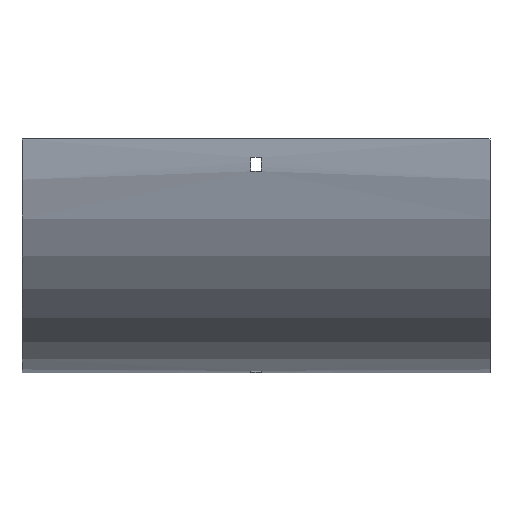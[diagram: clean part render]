
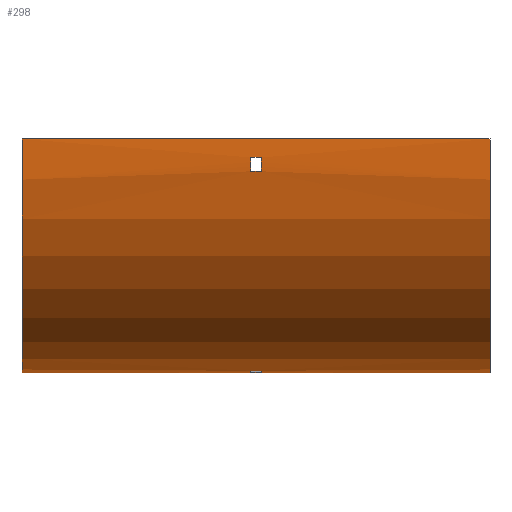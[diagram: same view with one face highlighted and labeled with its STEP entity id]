
A CAD part, front view. The second image highlights one B-rep face of the part: STEP entity #298.
In plain terms, the highlighted cylindrical face has radius 152 mm (diameter 304 mm), a partial arc.
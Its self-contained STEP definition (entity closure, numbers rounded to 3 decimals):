
#8 = CIRCLE ( 'NONE', #671, 152. ) ;
#12 = CARTESIAN_POINT ( 'NONE',  ( -3.25, 100., 0. ) ) ;
#18 = LINE ( 'NONE', #377, #825 ) ;
#58 = AXIS2_PLACEMENT_3D ( 'NONE', #446, #985, #802 ) ;
#71 = VERTEX_POINT ( 'NONE', #603 ) ;
#79 = DIRECTION ( 'NONE',  ( 1., 0., 0. ) ) ;
#90 = CARTESIAN_POINT ( 'NONE',  ( 152., -51.526, -12. ) ) ;
#109 = CARTESIAN_POINT ( 'NONE',  ( -152., 100., -152. ) ) ;
#123 = CARTESIAN_POINT ( 'NONE',  ( 152., -52., 0. ) ) ;
#131 = ORIENTED_EDGE ( 'NONE', *, *, #142, .T. ) ;
#139 = VERTEX_POINT ( 'NONE', #182 ) ;
#142 = EDGE_CURVE ( 'NONE', #145, #547, #806, .T. ) ;
#144 = CARTESIAN_POINT ( 'NONE',  ( -3.25, -51.526, -12. ) ) ;
#145 = VERTEX_POINT ( 'NONE', #423 ) ;
#151 = EDGE_CURVE ( 'NONE', #71, #530, #1024, .T. ) ;
#154 = DIRECTION ( 'NONE',  ( 0., 0., 1. ) ) ;
#163 = FACE_BOUND ( 'NONE', #930, .T. ) ;
#181 = CARTESIAN_POINT ( 'NONE',  ( -3.25, 79., -150.542 ) ) ;
#182 = CARTESIAN_POINT ( 'NONE',  ( 3.25, 79., -150.542 ) ) ;
#187 = DIRECTION ( 'NONE',  ( -1., 0., 0. ) ) ;
#188 = ORIENTED_EDGE ( 'NONE', *, *, #770, .T. ) ;
#196 = CARTESIAN_POINT ( 'NONE',  ( 152., 100., -152. ) ) ;
#208 = VECTOR ( 'NONE', #476, 1000. ) ;
#238 = EDGE_CURVE ( 'NONE', #71, #145, #1007, .T. ) ;
#251 = VERTEX_POINT ( 'NONE', #823 ) ;
#277 = EDGE_LOOP ( 'NONE', ( #131, #820, #663, #421 ) ) ;
#291 = DIRECTION ( 'NONE',  ( -1., 0., 0. ) ) ;
#298 = ADVANCED_FACE ( 'NONE', ( #494, #163, #581 ), #1051, .T. ) ;
#305 = LINE ( 'NONE', #461, #1043 ) ;
#312 = DIRECTION ( 'NONE',  ( -1., 0., 0. ) ) ;
#336 = DIRECTION ( 'NONE',  ( 0., 0., -1. ) ) ;
#351 = CARTESIAN_POINT ( 'NONE',  ( -3.25, 88., -151.526 ) ) ;
#377 = CARTESIAN_POINT ( 'NONE',  ( 152., 79., -150.542 ) ) ;
#393 = AXIS2_PLACEMENT_3D ( 'NONE', #609, #1054, #795 ) ;
#399 = VERTEX_POINT ( 'NONE', #181 ) ;
#414 = AXIS2_PLACEMENT_3D ( 'NONE', #779, #1131, #336 ) ;
#421 = ORIENTED_EDGE ( 'NONE', *, *, #238, .T. ) ;
#423 = CARTESIAN_POINT ( 'NONE',  ( -152., -52., 0. ) ) ;
#440 = DIRECTION ( 'NONE',  ( -1., 0., 0. ) ) ;
#446 = CARTESIAN_POINT ( 'NONE',  ( -152., 100., 0. ) ) ;
#456 = ORIENTED_EDGE ( 'NONE', *, *, #822, .F. ) ;
#461 = CARTESIAN_POINT ( 'NONE',  ( 152., 88., -151.526 ) ) ;
#476 = DIRECTION ( 'NONE',  ( -1., 0., 0. ) ) ;
#478 = EDGE_CURVE ( 'NONE', #530, #547, #719, .T. ) ;
#494 = FACE_OUTER_BOUND ( 'NONE', #277, .T. ) ;
#527 = CIRCLE ( 'NONE', #393, 152. ) ;
#530 = VERTEX_POINT ( 'NONE', #556 ) ;
#535 = CARTESIAN_POINT ( 'NONE',  ( 152., -50.542, -21. ) ) ;
#547 = VERTEX_POINT ( 'NONE', #109 ) ;
#556 = CARTESIAN_POINT ( 'NONE',  ( 152., 100., -152. ) ) ;
#562 = ORIENTED_EDGE ( 'NONE', *, *, #870, .T. ) ;
#578 = ORIENTED_EDGE ( 'NONE', *, *, #635, .F. ) ;
#581 = FACE_BOUND ( 'NONE', #620, .T. ) ;
#592 = CARTESIAN_POINT ( 'NONE',  ( 152., 100., 0. ) ) ;
#603 = CARTESIAN_POINT ( 'NONE',  ( 152., -52., 0. ) ) ;
#605 = CARTESIAN_POINT ( 'NONE',  ( 3.25, 100., 0. ) ) ;
#609 = CARTESIAN_POINT ( 'NONE',  ( -3.25, 100., 0. ) ) ;
#618 = VECTOR ( 'NONE', #79, 1000. ) ;
#620 = EDGE_LOOP ( 'NONE', ( #456, #1142, #879, #578 ) ) ;
#621 = LINE ( 'NONE', #90, #618 ) ;
#625 = LINE ( 'NONE', #535, #1048 ) ;
#635 = EDGE_CURVE ( 'NONE', #836, #902, #305, .T. ) ;
#643 = DIRECTION ( 'NONE',  ( 1., 0., 0. ) ) ;
#645 = EDGE_CURVE ( 'NONE', #139, #399, #18, .T. ) ;
#663 = ORIENTED_EDGE ( 'NONE', *, *, #151, .F. ) ;
#671 = AXIS2_PLACEMENT_3D ( 'NONE', #12, #981, #704 ) ;
#690 = VERTEX_POINT ( 'NONE', #144 ) ;
#704 = DIRECTION ( 'NONE',  ( 0., 0., 1. ) ) ;
#719 = LINE ( 'NONE', #196, #1097 ) ;
#770 = EDGE_CURVE ( 'NONE', #251, #690, #8, .T. ) ;
#779 = CARTESIAN_POINT ( 'NONE',  ( 152., 100., 0. ) ) ;
#791 = AXIS2_PLACEMENT_3D ( 'NONE', #605, #987, #971 ) ;
#795 = DIRECTION ( 'NONE',  ( 0., 1., 0. ) ) ;
#802 = DIRECTION ( 'NONE',  ( 0., 0., -1. ) ) ;
#803 = CARTESIAN_POINT ( 'NONE',  ( 3.25, -51.526, -12. ) ) ;
#806 = CIRCLE ( 'NONE', #58, 152. ) ;
#811 = EDGE_CURVE ( 'NONE', #1132, #251, #625, .T. ) ;
#820 = ORIENTED_EDGE ( 'NONE', *, *, #478, .F. ) ;
#822 = EDGE_CURVE ( 'NONE', #399, #836, #527, .T. ) ;
#823 = CARTESIAN_POINT ( 'NONE',  ( -3.25, -50.542, -21. ) ) ;
#825 = VECTOR ( 'NONE', #291, 1000. ) ;
#836 = VERTEX_POINT ( 'NONE', #351 ) ;
#855 = VERTEX_POINT ( 'NONE', #803 ) ;
#861 = AXIS2_PLACEMENT_3D ( 'NONE', #592, #312, #154 ) ;
#870 = EDGE_CURVE ( 'NONE', #855, #1132, #977, .T. ) ;
#879 = ORIENTED_EDGE ( 'NONE', *, *, #915, .F. ) ;
#886 = CARTESIAN_POINT ( 'NONE',  ( 3.25, 88., -151.526 ) ) ;
#902 = VERTEX_POINT ( 'NONE', #886 ) ;
#909 = EDGE_CURVE ( 'NONE', #690, #855, #621, .T. ) ;
#915 = EDGE_CURVE ( 'NONE', #902, #139, #1082, .T. ) ;
#930 = EDGE_LOOP ( 'NONE', ( #1058, #188, #1014, #562 ) ) ;
#971 = DIRECTION ( 'NONE',  ( 0., 0., -1. ) ) ;
#977 = CIRCLE ( 'NONE', #791, 152. ) ;
#981 = DIRECTION ( 'NONE',  ( -1., 0., 0. ) ) ;
#985 = DIRECTION ( 'NONE',  ( 1., 0., 0. ) ) ;
#987 = DIRECTION ( 'NONE',  ( 1., 0., 0. ) ) ;
#988 = DIRECTION ( 'NONE',  ( -1., 0., 0. ) ) ;
#1001 = DIRECTION ( 'NONE',  ( 0., 0., 1. ) ) ;
#1007 = LINE ( 'NONE', #123, #208 ) ;
#1009 = AXIS2_PLACEMENT_3D ( 'NONE', #1069, #187, #1001 ) ;
#1014 = ORIENTED_EDGE ( 'NONE', *, *, #909, .T. ) ;
#1024 = CIRCLE ( 'NONE', #414, 152. ) ;
#1043 = VECTOR ( 'NONE', #643, 1000. ) ;
#1048 = VECTOR ( 'NONE', #440, 1000. ) ;
#1051 = CYLINDRICAL_SURFACE ( 'NONE', #861, 152. ) ;
#1054 = DIRECTION ( 'NONE',  ( 1., 0., 0. ) ) ;
#1058 = ORIENTED_EDGE ( 'NONE', *, *, #811, .T. ) ;
#1069 = CARTESIAN_POINT ( 'NONE',  ( 3.25, 100., 0. ) ) ;
#1082 = CIRCLE ( 'NONE', #1009, 152. ) ;
#1097 = VECTOR ( 'NONE', #988, 1000. ) ;
#1102 = CARTESIAN_POINT ( 'NONE',  ( 3.25, -50.542, -21. ) ) ;
#1131 = DIRECTION ( 'NONE',  ( 1., 0., 0. ) ) ;
#1132 = VERTEX_POINT ( 'NONE', #1102 ) ;
#1142 = ORIENTED_EDGE ( 'NONE', *, *, #645, .F. ) ;
